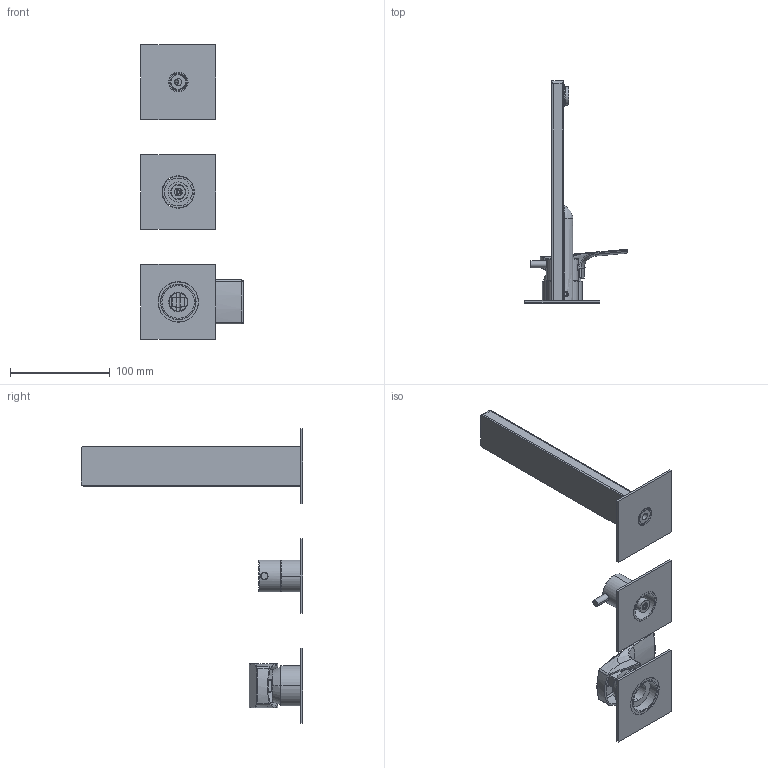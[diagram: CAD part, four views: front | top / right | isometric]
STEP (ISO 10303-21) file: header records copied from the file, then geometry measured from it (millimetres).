
FILE_DESCRIPTION((''),'2;1');
FILE_NAME('3D_SW0001','2024-09-30T11:48:28',('volponeff'),(''),'CREO PARAMETRIC BY PTC INC, 2022014','CREO PARAMETRIC BY PTC INC, 2022014','');
FILE_SCHEMA(('CONFIG_CONTROL_DESIGN'));
Products named in the file (1): 3D_SW0001
Bounding box: 102.5 x 222 x 295 mm (x, y, z)
Volume: 191513.7 mm3; surface area: 117734.9 mm2
Topology: 7 solids, 7 shells, 1321 faces, 3617 edges, 2290 vertices
Faces by surface type: cylinder 519, plane 388, bspline 164, cone 146, torus 86, sphere 18
Entity records: 107084 total; most frequent: CARTESIAN_POINT 75422, ORIENTED_EDGE 7176, DIRECTION 5845, EDGE_CURVE 3588, VERTEX_POINT 2290, AXIS2_PLACEMENT_3D 2172, VECTOR 1501, LINE 1501
